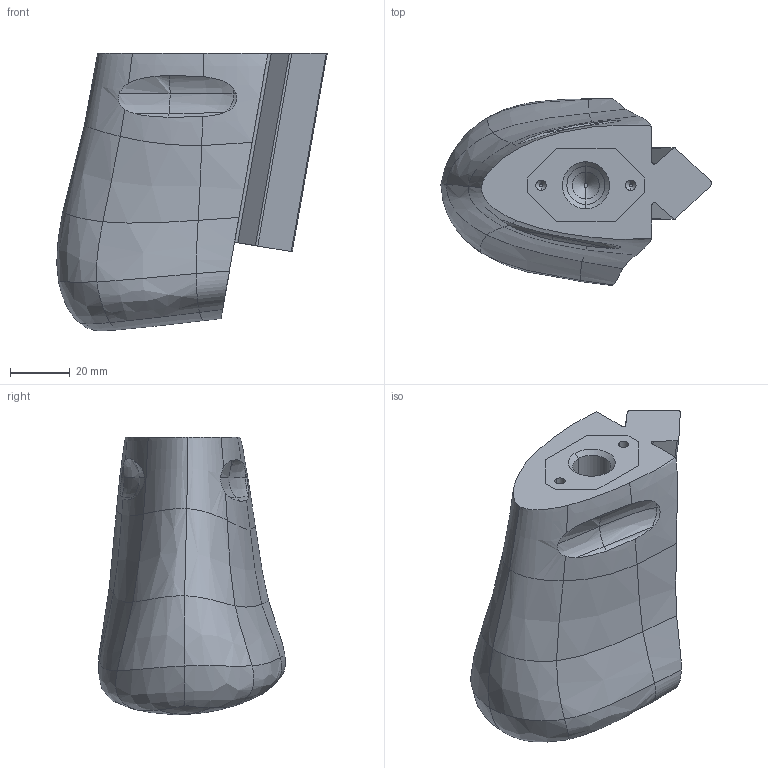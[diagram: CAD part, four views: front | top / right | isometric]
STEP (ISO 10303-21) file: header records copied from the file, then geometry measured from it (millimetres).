
FILE_DESCRIPTION(/* description */ (''),/* implementation_level */ '2;1');
FILE_NAME(/* name */ '40-sample-heel-tnut',/* time_stamp */ '2026-02-27T14:16:14-07:00',/* author */ (''),/* organization */ (''),/* preprocessor_version */ 'ST-DEVELOPER v19.2',/* originating_system */ 'Rhino 8.28',/* authorisation */ '');
FILE_SCHEMA (('AUTOMOTIVE_DESIGN'));
Length unit declared in the file: millimetre
Products named in the file (1): Document
Bounding box: 90.41 x 62.44 x 92.78 mm (x, y, z)
Volume: 215314.6 mm3; surface area: 25393.5 mm2
Topology: 1 solids, 1 shells, 80 faces, 193 edges, 119 vertices
Faces by surface type: bspline 61, plane 11, cylinder 8
Entity records: 7297 total; most frequent: CARTESIAN_POINT 5827, ORIENTED_EDGE 386, EDGE_CURVE 193, B_SPLINE_CURVE_WITH_KNOTS 148, VERTEX_POINT 119, EDGE_LOOP 84, ADVANCED_FACE 80, FACE_OUTER_BOUND 80
